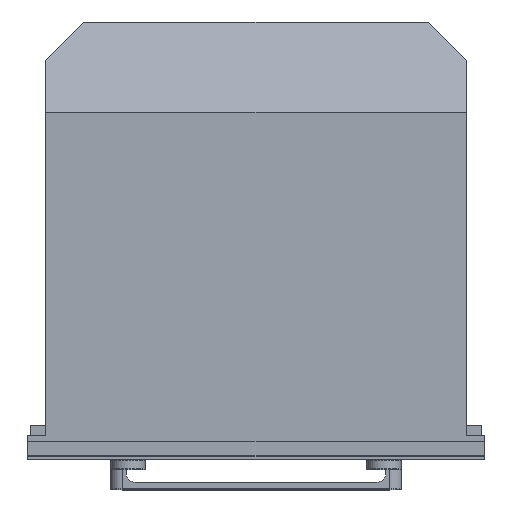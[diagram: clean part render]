
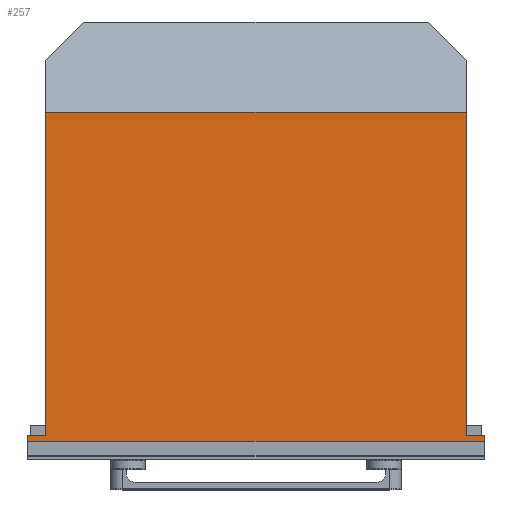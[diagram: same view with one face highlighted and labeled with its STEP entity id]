
A CAD part, top view. The second image highlights one B-rep face of the part: STEP entity #257.
In plain terms, the highlighted planar face has unit normal (0, 0, 1).
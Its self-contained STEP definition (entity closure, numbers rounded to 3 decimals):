
#257=ADVANCED_FACE('',(#469),#375,.T.);
#375=PLANE('',#2081);
#469=FACE_OUTER_BOUND('',#572,.T.);
#572=EDGE_LOOP('',(#792,#793,#794,#795,#796,#797,#798,#799));
#792=ORIENTED_EDGE('',*,*,#1445,.F.);
#793=ORIENTED_EDGE('',*,*,#1421,.T.);
#794=ORIENTED_EDGE('',*,*,#1414,.T.);
#795=ORIENTED_EDGE('',*,*,#1429,.T.);
#796=ORIENTED_EDGE('',*,*,#1446,.F.);
#797=ORIENTED_EDGE('',*,*,#1439,.T.);
#798=ORIENTED_EDGE('',*,*,#1444,.T.);
#799=ORIENTED_EDGE('',*,*,#1433,.F.);
#1228=VERTEX_POINT('',#2838);
#1229=VERTEX_POINT('',#2840);
#1232=VERTEX_POINT('',#2853);
#1237=VERTEX_POINT('',#2867);
#1241=VERTEX_POINT('',#2876);
#1242=VERTEX_POINT('',#2878);
#1247=VERTEX_POINT('',#2889);
#1248=VERTEX_POINT('',#2891);
#1414=EDGE_CURVE('',#1229,#1228,#1673,.T.);
#1421=EDGE_CURVE('',#1232,#1229,#1680,.T.);
#1429=EDGE_CURVE('',#1228,#1237,#1688,.T.);
#1433=EDGE_CURVE('',#1241,#1242,#1692,.T.);
#1439=EDGE_CURVE('',#1248,#1247,#1698,.T.);
#1444=EDGE_CURVE('',#1247,#1242,#1703,.T.);
#1445=EDGE_CURVE('',#1232,#1241,#1704,.T.);
#1446=EDGE_CURVE('',#1248,#1237,#1705,.T.);
#1673=LINE('',#2839,#1883);
#1680=LINE('',#2852,#1890);
#1688=LINE('',#2868,#1898);
#1692=LINE('',#2877,#1902);
#1698=LINE('',#2890,#1908);
#1703=LINE('',#2899,#1913);
#1704=LINE('',#2901,#1914);
#1705=LINE('',#2902,#1915);
#1883=VECTOR('',#2280,1.);
#1890=VECTOR('',#2293,1.);
#1898=VECTOR('',#2305,1.);
#1902=VECTOR('',#2311,1.);
#1908=VECTOR('',#2319,1.);
#1913=VECTOR('',#2328,1.);
#1914=VECTOR('',#2331,1.);
#1915=VECTOR('',#2332,1.);
#2081=AXIS2_PLACEMENT_3D('',#2903,#2333,#2334);
#2280=DIRECTION('',(-1.,0.,0.));
#2293=DIRECTION('',(0.,1.,0.));
#2305=DIRECTION('',(0.,-1.,0.));
#2311=DIRECTION('',(0.,-1.,0.));
#2319=DIRECTION('',(0.,-1.,0.));
#2328=DIRECTION('',(1.,0.,0.));
#2331=DIRECTION('',(1.,0.,0.));
#2332=DIRECTION('',(1.,0.,0.));
#2333=DIRECTION('',(0.,0.,1.));
#2334=DIRECTION('',(-1.,0.,0.));
#2838=CARTESIAN_POINT('',(-275.3,-33.37,331.6));
#2839=CARTESIAN_POINT('',(0.,-33.37,331.6));
#2840=CARTESIAN_POINT('',(275.3,-33.37,331.6));
#2852=CARTESIAN_POINT('',(275.3,-458.2,331.6));
#2853=CARTESIAN_POINT('',(275.3,-456.932,331.6));
#2867=CARTESIAN_POINT('',(-275.3,-456.932,331.6));
#2868=CARTESIAN_POINT('',(-275.3,-1.87,331.6));
#2876=CARTESIAN_POINT('',(298.5,-456.932,331.6));
#2877=CARTESIAN_POINT('',(298.5,-456.932,331.6));
#2878=CARTESIAN_POINT('',(298.5,-464.1,331.6));
#2889=CARTESIAN_POINT('',(-298.5,-464.1,331.6));
#2890=CARTESIAN_POINT('',(-298.5,-456.932,331.6));
#2891=CARTESIAN_POINT('',(-298.5,-456.932,331.6));
#2899=CARTESIAN_POINT('',(-298.5,-464.1,331.6));
#2901=CARTESIAN_POINT('',(-298.5,-456.932,331.6));
#2902=CARTESIAN_POINT('',(-298.5,-456.932,331.6));
#2903=CARTESIAN_POINT('',(-298.5,-456.932,331.6));
